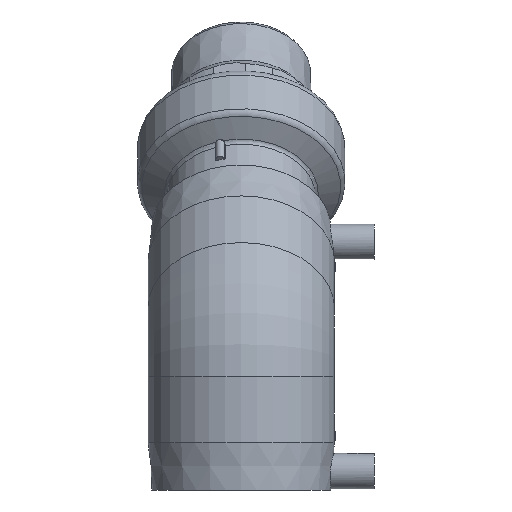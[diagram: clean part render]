
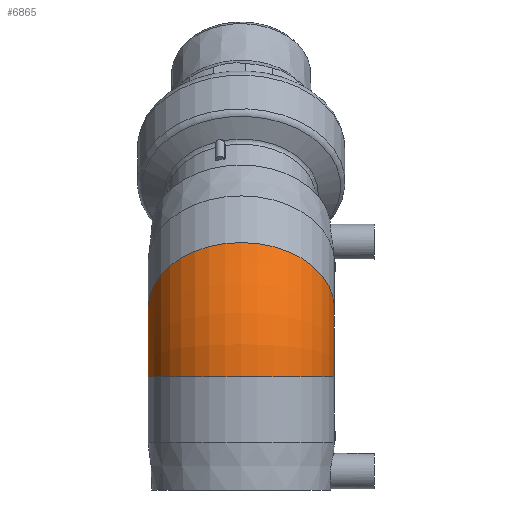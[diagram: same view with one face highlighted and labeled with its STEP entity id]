
A CAD part, left-side view. The second image highlights one B-rep face of the part: STEP entity #6865.
In plain terms, the highlighted toroidal (fillet/blend) face has major radius 41.042 mm and minor radius 39.5 mm.
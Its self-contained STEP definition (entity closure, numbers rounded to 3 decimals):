
#508=TOROIDAL_SURFACE('',#8672,41.042,39.5);
#1377=ORIENTED_EDGE('',*,*,#3588,.T.);
#1378=ORIENTED_EDGE('',*,*,#3589,.F.);
#3588=EDGE_CURVE('',#4699,#4699,#5451,.F.);
#3589=EDGE_CURVE('',#4700,#4700,#5452,.F.);
#4699=VERTEX_POINT('',#11245);
#4700=VERTEX_POINT('',#11248);
#5451=CIRCLE('',#8671,39.5);
#5452=CIRCLE('',#8673,39.5);
#5784=EDGE_LOOP('',(#1377));
#5785=EDGE_LOOP('',(#1378));
#6289=FACE_BOUND('',#5784,.T.);
#6290=FACE_BOUND('',#5785,.T.);
#6865=ADVANCED_FACE('',(#6289,#6290),#508,.T.);
#8671=AXIS2_PLACEMENT_3D('',#11244,#9472,#9473);
#8672=AXIS2_PLACEMENT_3D('',#11246,#9474,#9475);
#8673=AXIS2_PLACEMENT_3D('',#11247,#9476,#9477);
#9472=DIRECTION('',(0.,0.,-1.));
#9473=DIRECTION('',(1.,0.,0.));
#9474=DIRECTION('',(0.,1.,0.));
#9475=DIRECTION('',(0.,0.,1.));
#9476=DIRECTION('',(-0.707,0.,-0.707));
#9477=DIRECTION('',(0.707,0.,-0.707));
#11244=CARTESIAN_POINT('',(0.,0.,-17.));
#11245=CARTESIAN_POINT('',(39.5,0.,-17.));
#11246=CARTESIAN_POINT('',(41.042,0.,-17.));
#11247=CARTESIAN_POINT('',(12.021,0.,12.021));
#11248=CARTESIAN_POINT('',(39.952,0.,-15.91));
